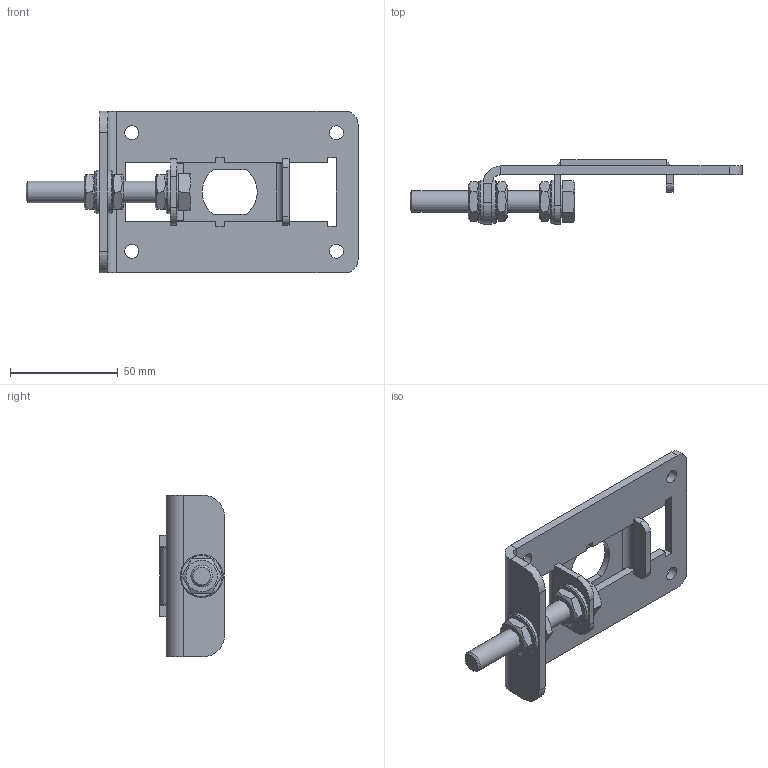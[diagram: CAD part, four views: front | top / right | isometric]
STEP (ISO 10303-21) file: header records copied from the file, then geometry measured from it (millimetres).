
FILE_DESCRIPTION(/* description */ (''),/* implementation_level */ '2;1');
FILE_NAME(/* name */ 'C:\Users\Gunnar Hansen\Documents\Inventor tegninger\00 Standart komponenter\Tromlemotorer\Beslag\Strammer SDS113 BL25-20\SDS 113 BL25-20.stp',/* time_stamp */ '2015-12-02T15:31:30+01:00',/* author */ ('Gunnar Hansen'),/* organization */ (''),/* preprocessor_version */ 'ST-DEVELOPER v15.6',/* originating_system */ 'Autodesk Inventor 2015',/* authorisation */ '');
FILE_SCHEMA (('AUTOMOTIVE_DESIGN { 1 0 10303 214 3 1 1 }'));
Length unit declared in the file: millimetre
Products named in the file (6): Strammeplade SDL-SDS Ø113; Glideplade SDS 113 BL25-20; DIN 125-2 B  10,5; DIN 933 - replaced by DIN EN 24017 M10  x 70; ISO 4035 M10; SDS 113  BL25-20
Bounding box: 154 x 30 x 75 mm (x, y, z)
Volume: 48301.6 mm3; surface area: 31425.3 mm2
Topology: 9 solids, 9 shells, 164 faces, 395 edges, 251 vertices
Faces by surface type: plane 106, cylinder 35, cone 23
Full cylindrical faces by diameter (mm): 6.5 x4, 8.376 x3, 9.188 x1, 10 x1, 10.5 x3, 11 x1, 15.4 x1, 20 x3
Entity records: 3845 total; most frequent: CARTESIAN_POINT 693, DIRECTION 632, ORIENTED_EDGE 600, EDGE_CURVE 300, AXIS2_PLACEMENT_3D 213, LINE 206, VECTOR 206, VERTEX_POINT 202
